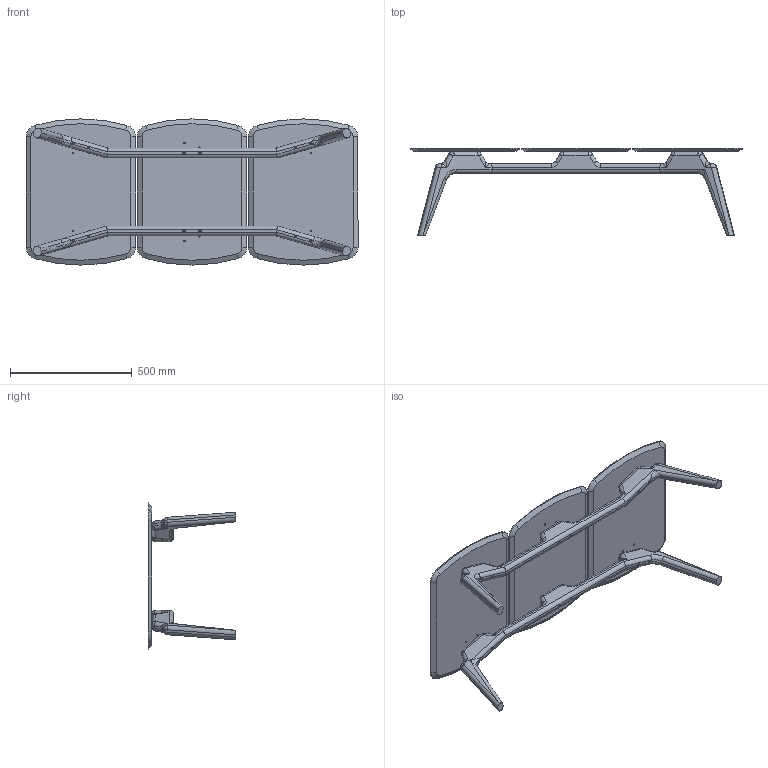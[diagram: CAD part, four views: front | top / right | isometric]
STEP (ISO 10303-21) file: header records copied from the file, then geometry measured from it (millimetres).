
FILE_DESCRIPTION (( 'STEP AP214' ), '1' );
FILE_NAME ('MESA_MIXTA_S_TRIO.STEP', '2019-08-02T09:47:36', ( '' ), ( '' ), 'SwSTEP 2.0', 'SolidWorks 2016', '' );
FILE_SCHEMA (( 'AUTOMOTIVE_DESIGN' ));
Length unit declared in the file: millimetre
Products named in the file (5): PATAS_MADERA_ALTURA DOBLE_DIAGONAL_2_MESA_MODULAR_2_SOBRES; PATAS_MADERA_ALTURA DOBLE_DIAGONAL_1; SOBRE_CAHPADO_RECTO_8_AGUJEROS_MESA_MODULAR_2_SOBRES; MESA_MIXTA_S_TRIO; TRAVESAÑO_2_SOBRES
Assembly tree (9 placements, depth 2):
  MESA_MIXTA_S_TRIO
    TRAVESAÑO_2_SOBRES  x2
    PATAS_MADERA_ALTURA DOBLE_DIAGONAL_2_MESA_MODULAR_2_SOBRES  x2
    PATAS_MADERA_ALTURA DOBLE_DIAGONAL_1  x2
    SOBRE_CAHPADO_RECTO_8_AGUJEROS_MESA_MODULAR_2_SOBRES  x3
Bounding box: 1362 x 360 x 600 mm (x, y, z)
Volume: 17587930.2 mm3; surface area: 2193594.9 mm2
Topology: 9 solids, 9 shells, 450 faces, 1072 edges, 644 vertices
Faces by surface type: cylinder 234, plane 134, torus 44, bspline 20, cone 18
Entity records: 6781 total; most frequent: CARTESIAN_POINT 1802, DIRECTION 1030, ORIENTED_EDGE 964, EDGE_CURVE 482, AXIS2_PLACEMENT_3D 410, VERTEX_POINT 294, EDGE_LOOP 224, LINE 210
